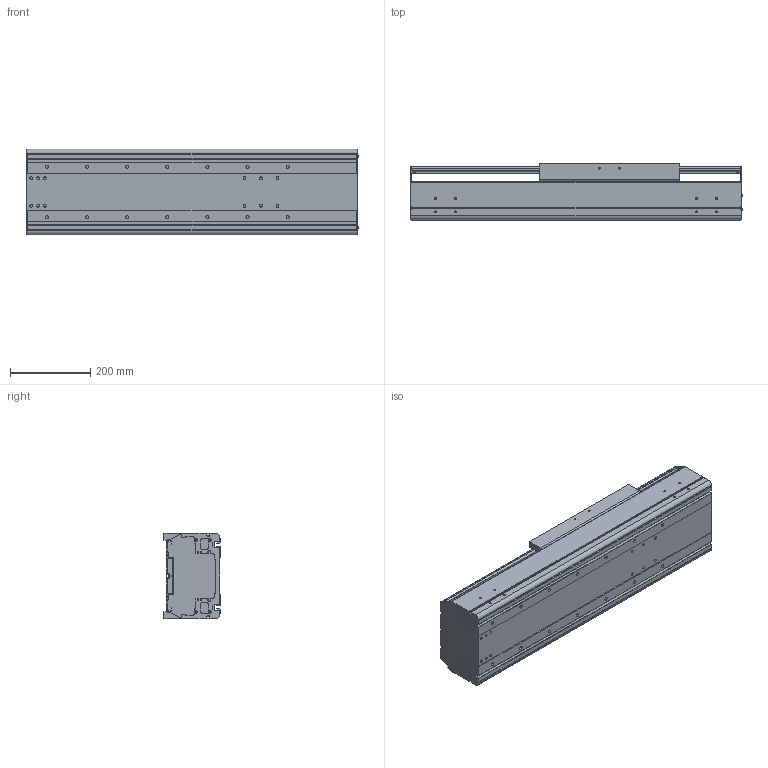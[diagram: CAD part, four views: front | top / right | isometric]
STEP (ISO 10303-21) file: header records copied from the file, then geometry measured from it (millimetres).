
FILE_DESCRIPTION((''),'2;1');
FILE_NAME('BE60J-ST-L_B-25_IGS_PRT','2017-06-18T',(' '),(''),'PRO/ENGINEER BY PARAMETRIC TECHNOLOGY CORPORATION, 2015030','PRO/ENGINEER BY PARAMETRIC TECHNOLOGY CORPORATION, 2015030','');
FILE_SCHEMA(('CONFIG_CONTROL_DESIGN'));
Length unit declared in the file: millimetre
Products named in the file (1): BE60J-ST-L_B-25_IGS_PRT
Bounding box: 827.4 x 140 x 214 mm (x, y, z)
Volume: 7320144.3 mm3; surface area: 1915754.3 mm2
Topology: 2 solids, 32 shells, 1095 faces, 2924 edges, 1880 vertices
Faces by surface type: plane 515, cylinder 472, cone 60, sphere 24, torus 24
Entity records: 34517 total; most frequent: CARTESIAN_POINT 6526, DIRECTION 5978, ORIENTED_EDGE 5624, EDGE_CURVE 2868, AXIS2_PLACEMENT_3D 2132, VERTEX_POINT 1880, VECTOR 1714, LINE 1714
